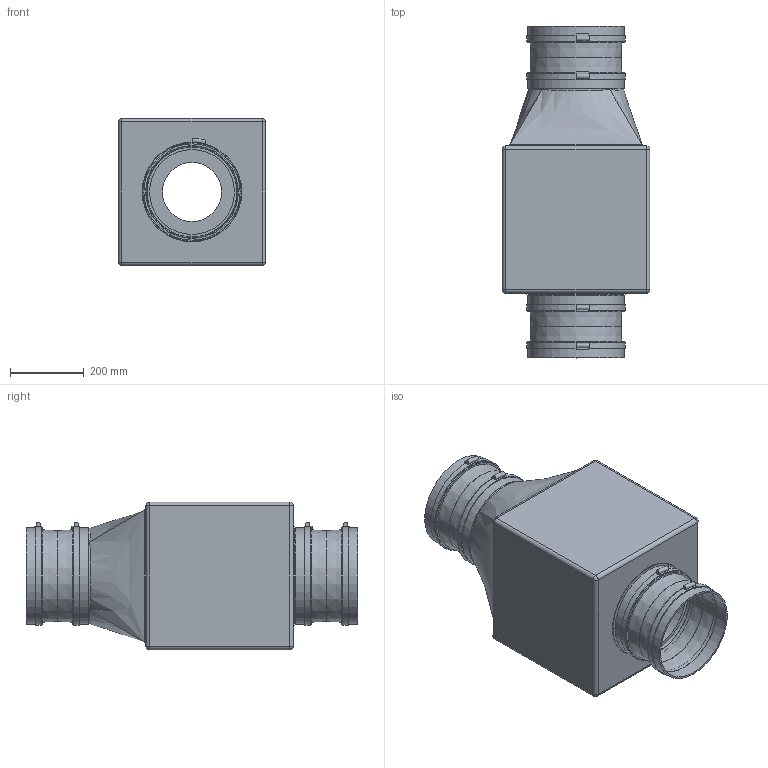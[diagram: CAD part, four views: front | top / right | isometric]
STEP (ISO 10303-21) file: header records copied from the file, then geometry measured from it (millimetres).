
FILE_DESCRIPTION(/* description */ (''),/* implementation_level */ '2;1');
FILE_NAME(/* name */ 'Z:\Output\GBW EC 250_Axial-05807-001.stp',/* time_stamp */ '2017-05-08T23:59:58+02:00',/* author */ ('jayeshpanchal'),/* organization */ (''),/* preprocessor_version */ 'ST-DEVELOPER v16.5',/* originating_system */ 'Autodesk Inventor 2017',/* authorisation */ '');
FILE_SCHEMA (('AUTOMOTIVE_DESIGN { 1 0 10303 214 3 1 1 }'));
Length unit declared in the file: millimetre
Products named in the file (1): GB-1
Bounding box: 400 x 900 x 400 mm (x, y, z)
Volume: 58076089.3 mm3; surface area: 2181204 mm2
Topology: 7 solids, 7 shells, 121 faces, 228 edges, 134 vertices
Faces by surface type: cylinder 46, plane 43, bspline 12, cone 8, sphere 8, torus 4
Full cylindrical faces by diameter (mm): 160 x1, 230 x1, 250 x2, 251 x8, 260 x1, 261 x8, 267 x4, 270 x1
Entity records: 3413 total; most frequent: CARTESIAN_POINT 1056, DIRECTION 514, ORIENTED_EDGE 398, AXIS2_PLACEMENT_3D 225, EDGE_CURVE 191, EDGE_LOOP 182, VERTEX_POINT 131, FACE_OUTER_BOUND 121
